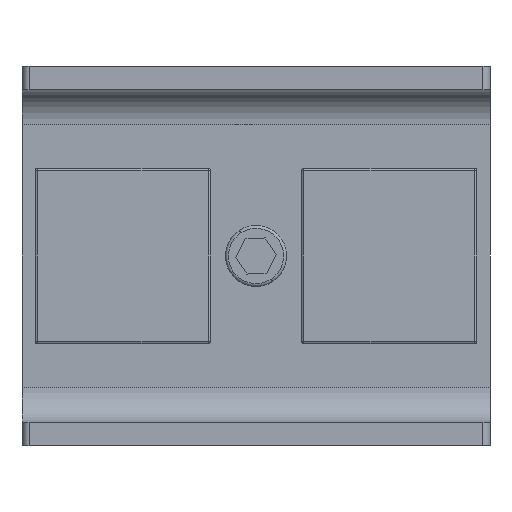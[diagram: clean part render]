
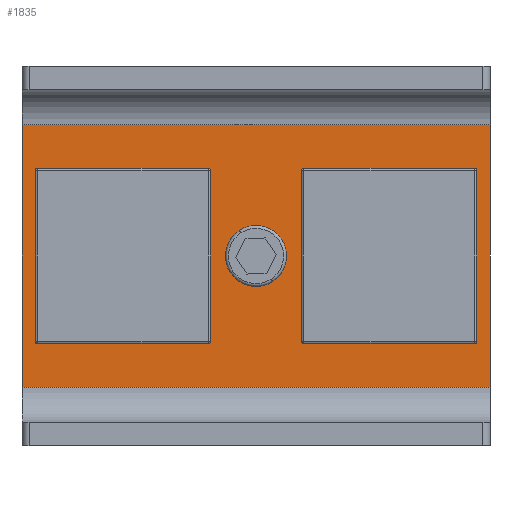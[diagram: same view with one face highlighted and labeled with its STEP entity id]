
A CAD part, front view. The second image highlights one B-rep face of the part: STEP entity #1835.
In plain terms, the highlighted planar face has unit normal (0, -1, 0).
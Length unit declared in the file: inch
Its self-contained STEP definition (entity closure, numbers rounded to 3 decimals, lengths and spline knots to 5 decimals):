
#138 = CARTESIAN_POINT ( 'NONE',  ( 0., -0.1, 0. ) ) ;
#154 = EDGE_CURVE ( 'NONE', #2532, #4312, #2470, .T. ) ;
#176 = DIRECTION ( 'NONE',  ( 0., 0., -1. ) ) ;
#227 = PLANE ( 'NONE',  #849 ) ;
#393 = LINE ( 'NONE', #4562, #2351 ) ;
#459 = ORIENTED_EDGE ( 'NONE', *, *, #4333, .F. ) ;
#486 = CARTESIAN_POINT ( 'NONE',  ( 0., -0.1, 0.0885 ) ) ;
#633 = CARTESIAN_POINT ( 'NONE',  ( 1., -0.1, 0.56 ) ) ;
#832 = EDGE_CURVE ( 'NONE', #4759, #1544, #3430, .T. ) ;
#849 = AXIS2_PLACEMENT_3D ( 'NONE', #4111, #3361, #176 ) ;
#919 = VERTEX_POINT ( 'NONE', #2274 ) ;
#946 = DIRECTION ( 'NONE',  ( 0., -1., 0. ) ) ;
#1017 = ORIENTED_EDGE ( 'NONE', *, *, #154, .F. ) ;
#1032 = CARTESIAN_POINT ( 'NONE',  ( -1., -0.1, -0.56 ) ) ;
#1102 = AXIS2_PLACEMENT_3D ( 'NONE', #138, #946, #4063 ) ;
#1124 = DIRECTION ( 'NONE',  ( 0., 0., -1. ) ) ;
#1245 = EDGE_LOOP ( 'NONE', ( #2414, #2585 ) ) ;
#1278 = DIRECTION ( 'NONE',  ( -1., 0., 0. ) ) ;
#1484 = VECTOR ( 'NONE', #2307, 39.37008 ) ;
#1544 = VERTEX_POINT ( 'NONE', #3527 ) ;
#1584 = FACE_OUTER_BOUND ( 'NONE', #3455, .T. ) ;
#1753 = VECTOR ( 'NONE', #1124, 39.37008 ) ;
#1797 = LINE ( 'NONE', #3074, #1484 ) ;
#1835 = ADVANCED_FACE ( 'NONE', ( #3114, #1584 ), #227, .T. ) ;
#1896 = AXIS2_PLACEMENT_3D ( 'NONE', #2015, #4330, #4316 ) ;
#2015 = CARTESIAN_POINT ( 'NONE',  ( 0., -0.1, 0. ) ) ;
#2274 = CARTESIAN_POINT ( 'NONE',  ( -1., -0.1, 0.56 ) ) ;
#2307 = DIRECTION ( 'NONE',  ( 0., 0., 1. ) ) ;
#2351 = VECTOR ( 'NONE', #3806, 39.37008 ) ;
#2414 = ORIENTED_EDGE ( 'NONE', *, *, #832, .F. ) ;
#2470 = LINE ( 'NONE', #4413, #4284 ) ;
#2532 = VERTEX_POINT ( 'NONE', #3520 ) ;
#2585 = ORIENTED_EDGE ( 'NONE', *, *, #4445, .F. ) ;
#2804 = LINE ( 'NONE', #3946, #1753 ) ;
#2949 = ORIENTED_EDGE ( 'NONE', *, *, #4407, .F. ) ;
#3043 = EDGE_CURVE ( 'NONE', #4257, #2532, #2804, .T. ) ;
#3074 = CARTESIAN_POINT ( 'NONE',  ( -1., -0.1, 0.81 ) ) ;
#3114 = FACE_BOUND ( 'NONE', #1245, .T. ) ;
#3361 = DIRECTION ( 'NONE',  ( 0., -1., 0. ) ) ;
#3430 = CIRCLE ( 'NONE', #1102, 0.0885 ) ;
#3455 = EDGE_LOOP ( 'NONE', ( #2949, #1017, #3835, #459 ) ) ;
#3520 = CARTESIAN_POINT ( 'NONE',  ( 1., -0.1, -0.56 ) ) ;
#3527 = CARTESIAN_POINT ( 'NONE',  ( 0., -0.1, -0.0885 ) ) ;
#3644 = CIRCLE ( 'NONE', #1896, 0.0885 ) ;
#3806 = DIRECTION ( 'NONE',  ( 1., 0., 0. ) ) ;
#3835 = ORIENTED_EDGE ( 'NONE', *, *, #3043, .F. ) ;
#3946 = CARTESIAN_POINT ( 'NONE',  ( 1., -0.1, 0.81 ) ) ;
#4063 = DIRECTION ( 'NONE',  ( 0., 0., -1. ) ) ;
#4111 = CARTESIAN_POINT ( 'NONE',  ( 0., -0.1, 0. ) ) ;
#4257 = VERTEX_POINT ( 'NONE', #633 ) ;
#4284 = VECTOR ( 'NONE', #1278, 39.37008 ) ;
#4312 = VERTEX_POINT ( 'NONE', #1032 ) ;
#4316 = DIRECTION ( 'NONE',  ( 0., 0., -1. ) ) ;
#4330 = DIRECTION ( 'NONE',  ( 0., -1., 0. ) ) ;
#4333 = EDGE_CURVE ( 'NONE', #919, #4257, #393, .T. ) ;
#4407 = EDGE_CURVE ( 'NONE', #4312, #919, #1797, .T. ) ;
#4413 = CARTESIAN_POINT ( 'NONE',  ( 1., -0.1, -0.56 ) ) ;
#4445 = EDGE_CURVE ( 'NONE', #1544, #4759, #3644, .T. ) ;
#4562 = CARTESIAN_POINT ( 'NONE',  ( -1., -0.1, 0.56 ) ) ;
#4759 = VERTEX_POINT ( 'NONE', #486 ) ;
